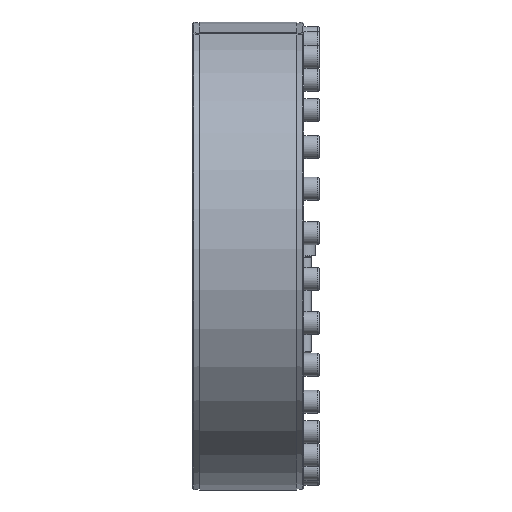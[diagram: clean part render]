
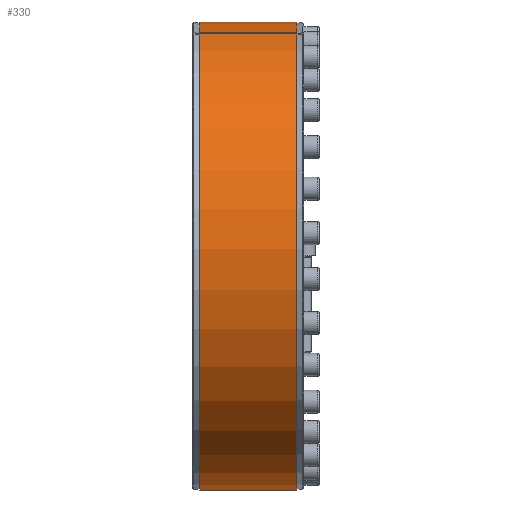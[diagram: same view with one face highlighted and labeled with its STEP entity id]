
A CAD part, left-side view. The second image highlights one B-rep face of the part: STEP entity #330.
In plain terms, the highlighted cylindrical face has radius 337.5 mm (diameter 675 mm), a partial arc.
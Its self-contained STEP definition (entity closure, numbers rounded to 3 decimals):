
#330 = ADVANCED_FACE( '', ( #947 ), #948, .T. );
#947 = FACE_OUTER_BOUND( '', #1639, .T. );
#948 = CYLINDRICAL_SURFACE( '', #1640, 337.5 );
#1639 = EDGE_LOOP( '', ( #2608, #2609, #2610, #2611 ) );
#1640 = AXIS2_PLACEMENT_3D( '', #2612, #2613, #2614 );
#2608 = ORIENTED_EDGE( '', *, *, #3144, .T. );
#2609 = ORIENTED_EDGE( '', *, *, #3231, .T. );
#2610 = ORIENTED_EDGE( '', *, *, #3041, .F. );
#2611 = ORIENTED_EDGE( '', *, *, #3232, .T. );
#2612 = CARTESIAN_POINT( '', ( 0., -60., 0. ) );
#2613 = DIRECTION( '', ( 0., 1., 0. ) );
#2614 = DIRECTION( '', ( 0., 0., -1. ) );
#3041 = EDGE_CURVE( '', #3572, #3573, #3574, .T. );
#3144 = EDGE_CURVE( '', #3755, #3753, #3756, .T. );
#3231 = EDGE_CURVE( '', #3753, #3573, #3888, .T. );
#3232 = EDGE_CURVE( '', #3572, #3755, #3889, .F. );
#3572 = VERTEX_POINT( '', #4335 );
#3573 = VERTEX_POINT( '', #4336 );
#3574 = CIRCLE( '', #4337, 337.5 );
#3753 = VERTEX_POINT( '', #4530 );
#3755 = VERTEX_POINT( '', #4533 );
#3756 = CIRCLE( '', #4534, 337.5 );
#3888 = LINE( '', #4705, #4706 );
#3889 = LINE( '', #4707, #4708 );
#4335 = CARTESIAN_POINT( '', ( -107.616, 10., 319.883 ) );
#4336 = CARTESIAN_POINT( '', ( -100.959, 10., 322.046 ) );
#4337 = AXIS2_PLACEMENT_3D( '', #5083, #5084, #5085 );
#4530 = CARTESIAN_POINT( '', ( -100.959, 150., 322.046 ) );
#4533 = CARTESIAN_POINT( '', ( -107.616, 150., 319.883 ) );
#4534 = AXIS2_PLACEMENT_3D( '', #5302, #5303, #5304 );
#4705 = CARTESIAN_POINT( '', ( -100.959, -60., 322.046 ) );
#4706 = VECTOR( '', #5431, 1000. );
#4707 = CARTESIAN_POINT( '', ( -107.616, -60., 319.883 ) );
#4708 = VECTOR( '', #5432, 1000. );
#5083 = CARTESIAN_POINT( '', ( 0., 10., 0. ) );
#5084 = DIRECTION( '', ( 0., -1., 0. ) );
#5085 = DIRECTION( '', ( 0., 0., -1. ) );
#5302 = CARTESIAN_POINT( '', ( 0., 150., 0. ) );
#5303 = DIRECTION( '', ( 0., -1., 0. ) );
#5304 = DIRECTION( '', ( 0., 0., -1. ) );
#5431 = DIRECTION( '', ( 0., -1., 0. ) );
#5432 = DIRECTION( '', ( 0., -1., 0. ) );
